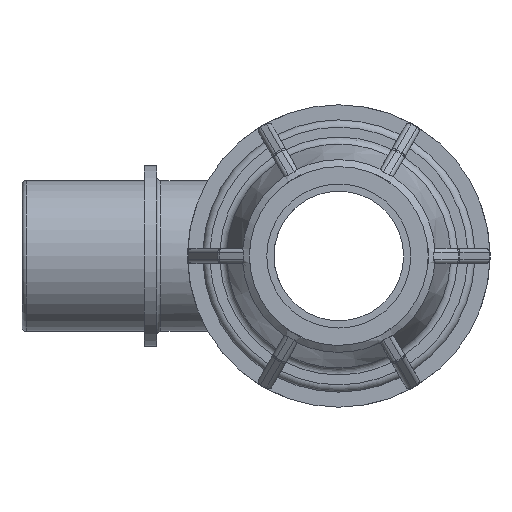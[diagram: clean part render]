
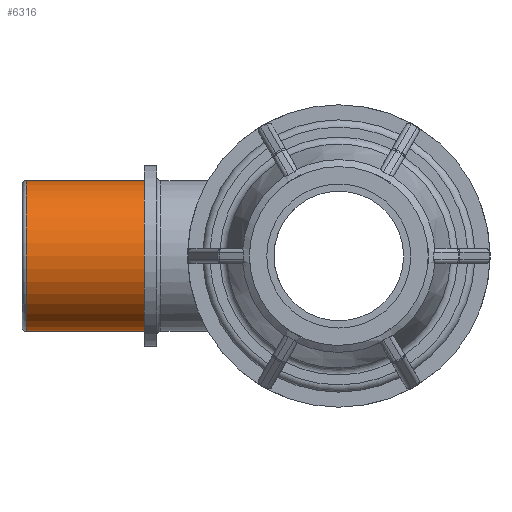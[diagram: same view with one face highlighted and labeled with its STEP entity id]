
A CAD part, left-side view. The second image highlights one B-rep face of the part: STEP entity #6316.
In plain terms, the highlighted cylindrical face has radius 10.477 mm (diameter 20.955 mm), a full revolution.
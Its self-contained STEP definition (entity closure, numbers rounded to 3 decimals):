
#1375=CIRCLE('',#7071,10.478);
#1377=CIRCLE('',#7074,10.478);
#1434=FACE_BOUND('',#2294,.T.);
#1846=FACE_OUTER_BOUND('',#2293,.T.);
#2293=EDGE_LOOP('',(#5771));
#2294=EDGE_LOOP('',(#5772));
#3029=VERTEX_POINT('',#12171);
#3031=VERTEX_POINT('',#12176);
#3946=EDGE_CURVE('',#3029,#3029,#1375,.T.);
#3948=EDGE_CURVE('',#3031,#3031,#1377,.T.);
#5771=ORIENTED_EDGE('',*,*,#3948,.T.);
#5772=ORIENTED_EDGE('',*,*,#3946,.F.);
#5908=CYLINDRICAL_SURFACE('',#7073,10.478);
#6316=ADVANCED_FACE('',(#1846,#1434),#5908,.T.);
#7071=AXIS2_PLACEMENT_3D('',#12172,#8938,#8939);
#7073=AXIS2_PLACEMENT_3D('',#12175,#8942,#8943);
#7074=AXIS2_PLACEMENT_3D('',#12177,#8944,#8945);
#8938=DIRECTION('center_axis',(0.,1.,0.));
#8939=DIRECTION('ref_axis',(1.,0.,0.));
#8942=DIRECTION('center_axis',(0.,1.,0.));
#8943=DIRECTION('ref_axis',(-1.,0.,0.));
#8944=DIRECTION('center_axis',(0.,1.,0.));
#8945=DIRECTION('ref_axis',(1.,0.,0.));
#12171=CARTESIAN_POINT('',(-10.478,43.4,0.));
#12172=CARTESIAN_POINT('Origin',(0.,43.4,0.));
#12175=CARTESIAN_POINT('Origin',(0.,35.5,0.));
#12176=CARTESIAN_POINT('',(-10.478,27.,0.));
#12177=CARTESIAN_POINT('Origin',(0.,27.,0.));
